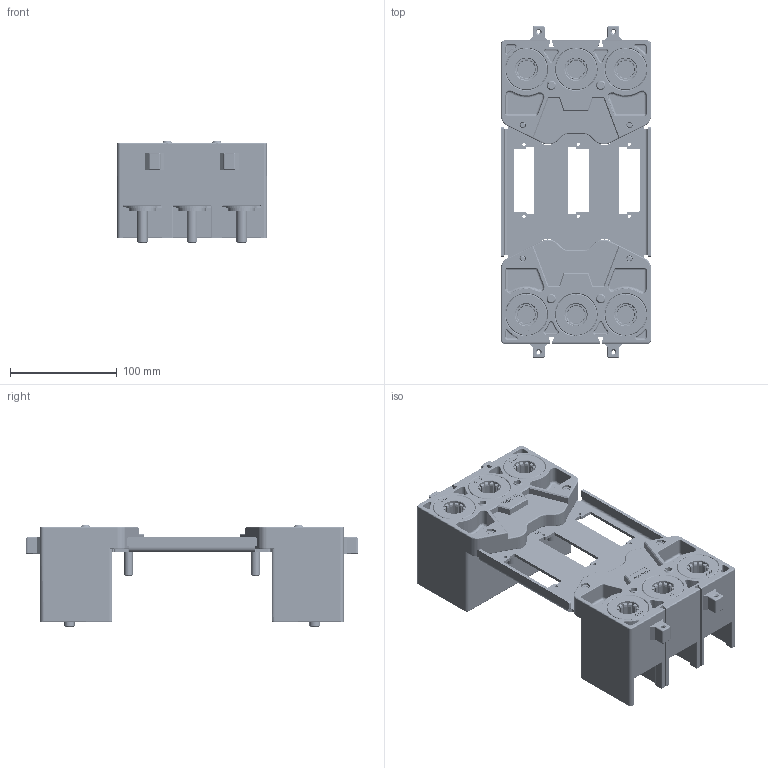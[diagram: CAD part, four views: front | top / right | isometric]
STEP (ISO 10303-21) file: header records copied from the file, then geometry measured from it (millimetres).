
FILE_DESCRIPTION(/* description */ (''),/* implementation_level */ '2;1');
FILE_NAME(/* name */ 'TDM 63GP P3_3D DATA.stp',/* time_stamp */ '2018-04-26T13:09:21+09:00',/* author */ (''),/* organization */ (''),/* preprocessor_version */ 'ST-DEVELOPER v15',/* originating_system */ 'SIEMENS PLM Software NX 9.0',/* authorisation */ '');
FILE_SCHEMA (('AP203_CONFIGURATION_CONTROLLED_3D_DESIGN_OF_MECHANICAL_PARTS_AND_ASSEMBLIES_MIM_LF { 1 0 10303 403 2 1 2}'));
Products named in the file (15): CONNECTED_SPRING_63GP_R00; GP3-MO-9002_R01; PC-STUD BOLT M10xL47_R00; GC4-PR-9001_R00; GP3-PG-9001_R00; PC-SNAP RING C(25)_R00; GP3-MO-9001_R03; GP1-OT-9003_R00; PC_M5 NUT_R00; PC_DH BOLT M5xL22_R00; GP3-PR-9001_R00; GP3-AS-9001_R00; GP3-CP-9002_R00; GP3-CP-9001_R00
Assembly tree (37 placements, depth 5):
  GP3-CP-9001_R00
    GP3-CP-9001_R00
      GP3-PR-9001_R00
      GP3-CP-9002_R00  x2
        GP3-AS-9001_R00
          GP3-PG-9001_R00
          GC4-PR-9001_R00  x12
          PC-STUD BOLT M10xL47_R00
          GP3-MO-9002_R01
          CONNECTED_SPRING_63GP_R00  x2
        GP3-MO-9001_R03
        PC-SNAP RING C(25)_R00
      PC_DH BOLT M5xL22_R00  x4
      PC_M5 NUT_R00  x4
      GP1-OT-9003_R00
Bounding box: 140 x 311 x 94.8 mm (x, y, z)
Volume: 1142811.2 mm3; surface area: 421862.2 mm2
Topology: 124 solids, 136 shells, 10640 faces, 26872 edges, 18274 vertices
Faces by surface type: torus 5520, cylinder 2244, plane 2022, bspline 524, extrusion 158, cone 124, sphere 48
Full cylindrical faces by diameter (mm): 3 x6, 3.5 x4, 5 x8, 5.5 x4, 6 x4, 7.8 x4, 8 x8, 8.5 x6, 10 x10, 20.8 x6, 21.8 x6, 24.3 x6, 25.3 x12, 25.4 x6, 39 x6, 39.5 x6
Entity records: 67900 total; most frequent: CARTESIAN_POINT 22624, DIRECTION 9239, ORIENTED_EDGE 7112, EDGE_CURVE 3558, AXIS2_PLACEMENT_3D 3258, VECTOR 2723, LINE 2678, VERTEX_POINT 2416
